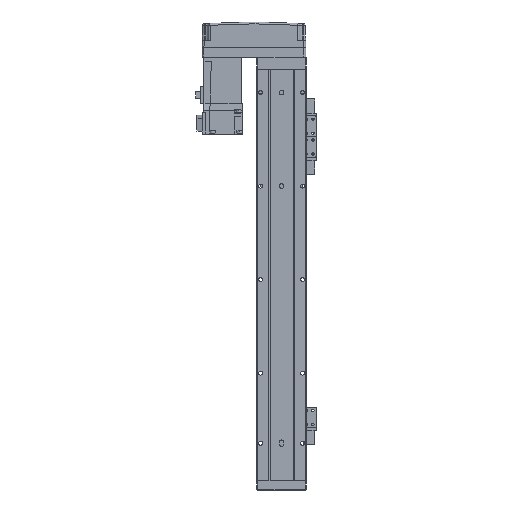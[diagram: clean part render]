
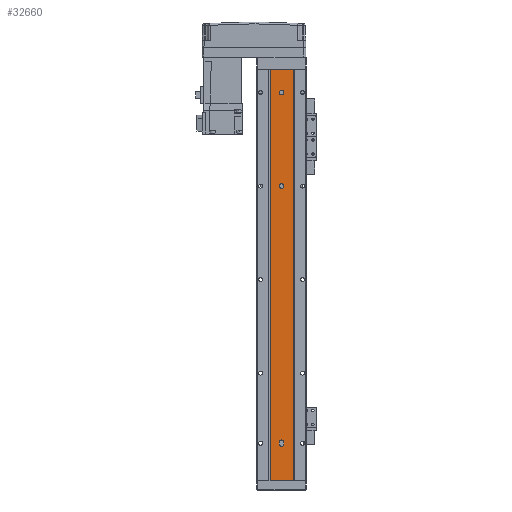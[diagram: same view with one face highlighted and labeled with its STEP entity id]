
A CAD part, front view. The second image highlights one B-rep face of the part: STEP entity #32660.
In plain terms, the highlighted planar face has unit normal (0, -1, 0).
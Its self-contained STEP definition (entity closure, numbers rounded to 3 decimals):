
#998 = LINE ( 'NONE', #23173, #1419 ) ;
#1414 = DIRECTION ( 'NONE',  ( 1., 0., 0. ) ) ;
#1419 = VECTOR ( 'NONE', #32021, 1000. ) ;
#1679 = CARTESIAN_POINT ( 'NONE',  ( 0., 1.5, -401. ) ) ;
#1716 = CARTESIAN_POINT ( 'NONE',  ( 12.293, 1.5, 0. ) ) ;
#1720 = DIRECTION ( 'NONE',  ( 1., 0., 0. ) ) ;
#1779 = CARTESIAN_POINT ( 'NONE',  ( 2.5, 1.5, -125. ) ) ;
#2139 = ORIENTED_EDGE ( 'NONE', *, *, #11634, .F. ) ;
#2185 = DIRECTION ( 'NONE',  ( 1., 0., 0. ) ) ;
#3122 = FACE_BOUND ( 'NONE', #5490, .T. ) ;
#3471 = EDGE_CURVE ( 'NONE', #35930, #21445, #35290, .T. ) ;
#4230 = CARTESIAN_POINT ( 'NONE',  ( 12.293, 1.5, -440. ) ) ;
#4855 = EDGE_LOOP ( 'NONE', ( #2139, #36992, #21768, #5064 ) ) ;
#5056 = EDGE_LOOP ( 'NONE', ( #12541, #27219, #36647, #9432 ) ) ;
#5064 = ORIENTED_EDGE ( 'NONE', *, *, #36012, .F. ) ;
#5098 = CARTESIAN_POINT ( 'NONE',  ( 0., 1.5, -399. ) ) ;
#5490 = EDGE_LOOP ( 'NONE', ( #32305, #12392 ) ) ;
#5491 = DIRECTION ( 'NONE',  ( 1., 0., 0. ) ) ;
#6615 = CIRCLE ( 'NONE', #15188, 2.5 ) ;
#7271 = LINE ( 'NONE', #23344, #12777 ) ;
#7507 = CARTESIAN_POINT ( 'NONE',  ( 12.293, 1.5, 0. ) ) ;
#7526 = CARTESIAN_POINT ( 'NONE',  ( -12.293, 1.5, 0. ) ) ;
#7646 = DIRECTION ( 'NONE',  ( 1., 0., 0. ) ) ;
#7679 = VERTEX_POINT ( 'NONE', #7526 ) ;
#7950 = DIRECTION ( 'NONE',  ( 0., -1., 0. ) ) ;
#8176 = VERTEX_POINT ( 'NONE', #34757 ) ;
#8874 = DIRECTION ( 'NONE',  ( 0., -1., 0. ) ) ;
#8946 = EDGE_CURVE ( 'NONE', #12023, #11661, #20480, .T. ) ;
#9432 = ORIENTED_EDGE ( 'NONE', *, *, #8946, .T. ) ;
#10526 = VERTEX_POINT ( 'NONE', #13417 ) ;
#11313 = DIRECTION ( 'NONE',  ( 0., 0., 1. ) ) ;
#11380 = LINE ( 'NONE', #19556, #19314 ) ;
#11478 = FACE_BOUND ( 'NONE', #4855, .T. ) ;
#11634 = EDGE_CURVE ( 'NONE', #28735, #29289, #13082, .T. ) ;
#11661 = VERTEX_POINT ( 'NONE', #7507 ) ;
#11681 = DIRECTION ( 'NONE',  ( 0., -1., 0. ) ) ;
#12023 = VERTEX_POINT ( 'NONE', #33512 ) ;
#12388 = FACE_OUTER_BOUND ( 'NONE', #5056, .T. ) ;
#12392 = ORIENTED_EDGE ( 'NONE', *, *, #12871, .F. ) ;
#12541 = ORIENTED_EDGE ( 'NONE', *, *, #20209, .F. ) ;
#12551 = VECTOR ( 'NONE', #21155, 1000. ) ;
#12777 = VECTOR ( 'NONE', #11313, 1000. ) ;
#12871 = EDGE_CURVE ( 'NONE', #8176, #18836, #29370, .T. ) ;
#13082 = CIRCLE ( 'NONE', #31964, 2.5 ) ;
#13146 = AXIS2_PLACEMENT_3D ( 'NONE', #17803, #11681, #23581 ) ;
#13244 = EDGE_CURVE ( 'NONE', #18836, #8176, #32923, .T. ) ;
#13417 = CARTESIAN_POINT ( 'NONE',  ( -2.5, 1.5, -399. ) ) ;
#13579 = AXIS2_PLACEMENT_3D ( 'NONE', #14470, #20541, #17438 ) ;
#13900 = EDGE_CURVE ( 'NONE', #37680, #12023, #33712, .T. ) ;
#14470 = CARTESIAN_POINT ( 'NONE',  ( 0., 1.5, -25. ) ) ;
#15188 = AXIS2_PLACEMENT_3D ( 'NONE', #5098, #34469, #17032 ) ;
#15677 = ORIENTED_EDGE ( 'NONE', *, *, #22744, .F. ) ;
#15750 = AXIS2_PLACEMENT_3D ( 'NONE', #26683, #8874, #5491 ) ;
#17032 = DIRECTION ( 'NONE',  ( 1., 0., 0. ) ) ;
#17438 = DIRECTION ( 'NONE',  ( 1., 0., 0. ) ) ;
#17693 = EDGE_CURVE ( 'NONE', #26618, #10526, #6615, .T. ) ;
#17803 = CARTESIAN_POINT ( 'NONE',  ( 0., 1.5, -25. ) ) ;
#18039 = AXIS2_PLACEMENT_3D ( 'NONE', #19505, #7950, #1720 ) ;
#18810 = EDGE_CURVE ( 'NONE', #10526, #28735, #11380, .T. ) ;
#18836 = VERTEX_POINT ( 'NONE', #1779 ) ;
#19314 = VECTOR ( 'NONE', #22749, 1000. ) ;
#19457 = CARTESIAN_POINT ( 'NONE',  ( 12.293, 1.5, -440. ) ) ;
#19505 = CARTESIAN_POINT ( 'NONE',  ( 0., 1.5, -125. ) ) ;
#19506 = AXIS2_PLACEMENT_3D ( 'NONE', #4230, #27770, #1414 ) ;
#19556 = CARTESIAN_POINT ( 'NONE',  ( -2.5, 1.5, -440. ) ) ;
#20209 = EDGE_CURVE ( 'NONE', #7679, #11661, #28302, .T. ) ;
#20480 = LINE ( 'NONE', #26918, #12551 ) ;
#20491 = VECTOR ( 'NONE', #25386, 1000. ) ;
#20541 = DIRECTION ( 'NONE',  ( 0., -1., 0. ) ) ;
#20923 = VECTOR ( 'NONE', #2185, 1000. ) ;
#21155 = DIRECTION ( 'NONE',  ( 0., 0., 1. ) ) ;
#21445 = VERTEX_POINT ( 'NONE', #25684 ) ;
#21768 = ORIENTED_EDGE ( 'NONE', *, *, #17693, .F. ) ;
#22253 = EDGE_CURVE ( 'NONE', #37680, #7679, #998, .T. ) ;
#22744 = EDGE_CURVE ( 'NONE', #21445, #35930, #27215, .T. ) ;
#22749 = DIRECTION ( 'NONE',  ( 0., 0., -1. ) ) ;
#23173 = CARTESIAN_POINT ( 'NONE',  ( -12.293, 1.5, -440. ) ) ;
#23344 = CARTESIAN_POINT ( 'NONE',  ( 2.5, 1.5, -440. ) ) ;
#23581 = DIRECTION ( 'NONE',  ( 1., 0., 0. ) ) ;
#24026 = EDGE_LOOP ( 'NONE', ( #15677, #35152 ) ) ;
#24563 = PLANE ( 'NONE',  #19506 ) ;
#25386 = DIRECTION ( 'NONE',  ( 1., 0., 0. ) ) ;
#25684 = CARTESIAN_POINT ( 'NONE',  ( 2.5, 1.5, -25. ) ) ;
#26618 = VERTEX_POINT ( 'NONE', #30084 ) ;
#26683 = CARTESIAN_POINT ( 'NONE',  ( 0., 1.5, -125. ) ) ;
#26918 = CARTESIAN_POINT ( 'NONE',  ( 12.293, 1.5, -440. ) ) ;
#27215 = CIRCLE ( 'NONE', #13146, 2.5 ) ;
#27219 = ORIENTED_EDGE ( 'NONE', *, *, #22253, .F. ) ;
#27770 = DIRECTION ( 'NONE',  ( 0., -1., 0. ) ) ;
#28114 = CARTESIAN_POINT ( 'NONE',  ( -2.5, 1.5, -25. ) ) ;
#28302 = LINE ( 'NONE', #1716, #20491 ) ;
#28735 = VERTEX_POINT ( 'NONE', #35237 ) ;
#29289 = VERTEX_POINT ( 'NONE', #34807 ) ;
#29370 = CIRCLE ( 'NONE', #15750, 2.5 ) ;
#30084 = CARTESIAN_POINT ( 'NONE',  ( 2.5, 1.5, -399. ) ) ;
#31964 = AXIS2_PLACEMENT_3D ( 'NONE', #1679, #37096, #7646 ) ;
#32021 = DIRECTION ( 'NONE',  ( 0., 0., 1. ) ) ;
#32305 = ORIENTED_EDGE ( 'NONE', *, *, #13244, .F. ) ;
#32660 = ADVANCED_FACE ( 'NONE', ( #11478, #3122, #36284, #12388 ), #24563, .T. ) ;
#32923 = CIRCLE ( 'NONE', #18039, 2.5 ) ;
#33512 = CARTESIAN_POINT ( 'NONE',  ( 12.293, 1.5, -440. ) ) ;
#33712 = LINE ( 'NONE', #19457, #20923 ) ;
#34469 = DIRECTION ( 'NONE',  ( 0., -1., 0. ) ) ;
#34757 = CARTESIAN_POINT ( 'NONE',  ( -2.5, 1.5, -125. ) ) ;
#34807 = CARTESIAN_POINT ( 'NONE',  ( 2.5, 1.5, -401. ) ) ;
#35152 = ORIENTED_EDGE ( 'NONE', *, *, #3471, .F. ) ;
#35237 = CARTESIAN_POINT ( 'NONE',  ( -2.5, 1.5, -401. ) ) ;
#35290 = CIRCLE ( 'NONE', #13579, 2.5 ) ;
#35930 = VERTEX_POINT ( 'NONE', #28114 ) ;
#36012 = EDGE_CURVE ( 'NONE', #29289, #26618, #7271, .T. ) ;
#36284 = FACE_BOUND ( 'NONE', #24026, .T. ) ;
#36647 = ORIENTED_EDGE ( 'NONE', *, *, #13900, .T. ) ;
#36992 = ORIENTED_EDGE ( 'NONE', *, *, #18810, .F. ) ;
#37096 = DIRECTION ( 'NONE',  ( 0., -1., 0. ) ) ;
#37156 = CARTESIAN_POINT ( 'NONE',  ( -12.293, 1.5, -440. ) ) ;
#37680 = VERTEX_POINT ( 'NONE', #37156 ) ;
